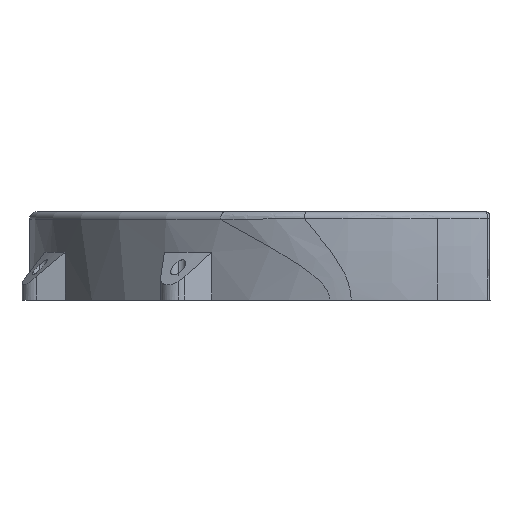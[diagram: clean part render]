
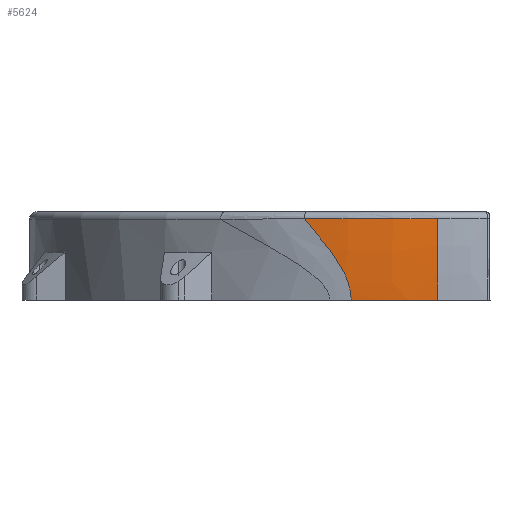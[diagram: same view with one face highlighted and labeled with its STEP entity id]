
A CAD part, left-side view. The second image highlights one B-rep face of the part: STEP entity #5624.
In plain terms, the highlighted toroidal (fillet/blend) face has major radius 50 mm and minor radius 150 mm.
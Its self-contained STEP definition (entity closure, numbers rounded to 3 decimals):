
#307 = ORIENTED_EDGE ( 'NONE', *, *, #5016, .F. ) ;
#319 = CIRCLE ( 'NONE', #7635, 100. ) ;
#473 = ORIENTED_EDGE ( 'NONE', *, *, #7603, .T. ) ;
#828 = CARTESIAN_POINT ( 'NONE',  ( -78.215, 16.433, 2.01 ) ) ;
#1058 = DIRECTION ( 'NONE',  ( 0., 0., -1. ) ) ;
#1341 = EDGE_CURVE ( 'NONE', #7550, #2249, #1567, .T. ) ;
#1542 = DIRECTION ( 'NONE',  ( 0., 0., -1. ) ) ;
#1567 = B_SPLINE_CURVE_WITH_KNOTS ( 'NONE', 3,
 ( #2810, #4143, #6124, #4848, #3523, #4231, #6872, #8192, #2156, #6830, #7539, #4187, #3574, #828, #2863, #2296, #7626, #5556 ),
 .UNSPECIFIED., .F., .F.,
 ( 4, 2, 2, 2, 2, 2, 2, 2, 4 ),
 ( 0.002, 0.007, 0.009, 0.011, 0.014, 0.016, 0.019, 0.02, 0.021 ),
 .UNSPECIFIED. ) ;
#2156 = CARTESIAN_POINT ( 'NONE',  ( -77.602, 18.761, 7.499 ) ) ;
#2249 = VERTEX_POINT ( 'NONE', #7289 ) ;
#2296 = CARTESIAN_POINT ( 'NONE',  ( -78.256, 16.266, 0.813 ) ) ;
#2336 = FACE_OUTER_BOUND ( 'NONE', #5541, .T. ) ;
#2486 = ORIENTED_EDGE ( 'NONE', *, *, #5534, .T. ) ;
#2606 = DIRECTION ( 'NONE',  ( 1., 0., 0. ) ) ;
#2651 = CARTESIAN_POINT ( 'NONE',  ( -79.74, -0.887, 0. ) ) ;
#2741 = VERTEX_POINT ( 'NONE', #2651 ) ;
#2810 = CARTESIAN_POINT ( 'NONE',  ( -75.283, 25.526, 16.162 ) ) ;
#2863 = CARTESIAN_POINT ( 'NONE',  ( -78.233, 16.362, 1.616 ) ) ;
#3084 = DIRECTION ( 'NONE',  ( -1., 0., 0. ) ) ;
#3523 = CARTESIAN_POINT ( 'NONE',  ( -76.76, 21.505, 11.376 ) ) ;
#3574 = CARTESIAN_POINT ( 'NONE',  ( -78.148, 16.706, 3.178 ) ) ;
#3679 = ORIENTED_EDGE ( 'NONE', *, *, #1341, .T. ) ;
#3939 = CARTESIAN_POINT ( 'NONE',  ( -75.283, 25.526, 16.162 ) ) ;
#3973 = TOROIDAL_SURFACE ( 'NONE', #4810, -50., 150. ) ;
#4143 = CARTESIAN_POINT ( 'NONE',  ( -75.698, 24.498, 14.998 ) ) ;
#4185 = VERTEX_POINT ( 'NONE', #6484 ) ;
#4187 = CARTESIAN_POINT ( 'NONE',  ( -78.083, 16.967, 3.934 ) ) ;
#4231 = CARTESIAN_POINT ( 'NONE',  ( -77.068, 20.55, 10.119 ) ) ;
#4569 = DIRECTION ( 'NONE',  ( -1., 0., 0. ) ) ;
#4810 = AXIS2_PLACEMENT_3D ( 'NONE', #7003, #1058, #3084 ) ;
#4813 = CIRCLE ( 'NONE', #8337, 99.127 ) ;
#4848 = CARTESIAN_POINT ( 'NONE',  ( -76.597, 21.994, 11.992 ) ) ;
#5016 = EDGE_CURVE ( 'NONE', #4185, #2741, #5801, .T. ) ;
#5534 = EDGE_CURVE ( 'NONE', #2249, #2741, #319, .T. ) ;
#5541 = EDGE_LOOP ( 'NONE', ( #307, #473, #3679, #2486 ) ) ;
#5556 = CARTESIAN_POINT ( 'NONE',  ( -78.262, 16.241, 0. ) ) ;
#5624 = ADVANCED_FACE ( 'NONE', ( #2336 ), #3973, .T. ) ;
#5801 = CIRCLE ( 'NONE', #6362, 150. ) ;
#5957 = CARTESIAN_POINT ( 'NONE',  ( 20.26, -0.887, 0. ) ) ;
#6124 = CARTESIAN_POINT ( 'NONE',  ( -76.079, 23.48, 13.815 ) ) ;
#6362 = AXIS2_PLACEMENT_3D ( 'NONE', #6880, #7586, #1542 ) ;
#6484 = CARTESIAN_POINT ( 'NONE',  ( -78.867, -0.887, 16.162 ) ) ;
#6830 = CARTESIAN_POINT ( 'NONE',  ( -77.822, 17.967, 6.122 ) ) ;
#6872 = CARTESIAN_POINT ( 'NONE',  ( -77.213, 20.083, 9.478 ) ) ;
#6880 = CARTESIAN_POINT ( 'NONE',  ( 70.26, -0.887, 0. ) ) ;
#7003 = CARTESIAN_POINT ( 'NONE',  ( 20.26, -0.887, 0. ) ) ;
#7289 = CARTESIAN_POINT ( 'NONE',  ( -78.262, 16.241, 0. ) ) ;
#7379 = CARTESIAN_POINT ( 'NONE',  ( 20.26, -0.887, 16.162 ) ) ;
#7539 = CARTESIAN_POINT ( 'NONE',  ( -77.919, 17.601, 5.414 ) ) ;
#7550 = VERTEX_POINT ( 'NONE', #3939 ) ;
#7586 = DIRECTION ( 'NONE',  ( 0., -1., 0. ) ) ;
#7603 = EDGE_CURVE ( 'NONE', #4185, #7550, #4813, .T. ) ;
#7626 = CARTESIAN_POINT ( 'NONE',  ( -78.262, 16.241, 0.406 ) ) ;
#7635 = AXIS2_PLACEMENT_3D ( 'NONE', #5957, #8631, #2606 ) ;
#8192 = CARTESIAN_POINT ( 'NONE',  ( -77.48, 19.188, 8.168 ) ) ;
#8337 = AXIS2_PLACEMENT_3D ( 'NONE', #7379, #8645, #4569 ) ;
#8631 = DIRECTION ( 'NONE',  ( 0., 0., 1. ) ) ;
#8645 = DIRECTION ( 'NONE',  ( 0., 0., -1. ) ) ;
